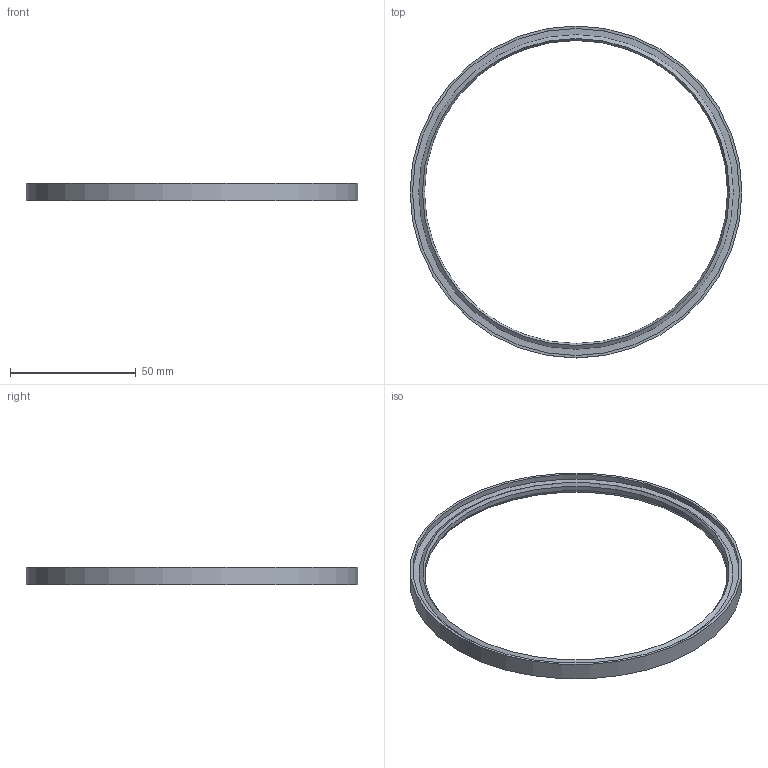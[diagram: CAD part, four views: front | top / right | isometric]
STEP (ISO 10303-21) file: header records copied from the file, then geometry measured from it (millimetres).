
FILE_DESCRIPTION( ( 'Unknown' ), '1' );
FILE_NAME( 'X:/Daten ( aktueller Bestand )/Projekte und Zeichnungen/Solid Edge/STP-Dateien/ISO-K Teile und Zubehör/6292.stp', 'Unknown', ( 'Unknown' ), ( 'Unknown' ), 'PSStep 14.0', 'Unknown', ' ' );
FILE_SCHEMA( ( 'AUTOMOTIVE_DESIGN { 1 0 10303 214 1 1 1 1 }' ) );
Length unit declared in the file: millimetre
Products named in the file (1): 1
Bounding box: 132 x 132 x 7 mm (x, y, z)
Volume: 8388 mm3; surface area: 10879.3 mm2
Topology: 1 solids, 1 shells, 12 faces, 20 edges, 12 vertices
Faces by surface type: plane 4, cylinder 4, cone 4
Full cylindrical faces by diameter (mm): 120.5 x1, 130 x2, 132 x1
Entity records: 360 total; most frequent: DIRECTION 50, CARTESIAN_POINT 37, AXIS2_PLACEMENT_3D 25, EDGE_LOOP 24, ORIENTED_EDGE 24, FACE_OUTER_BOUND 16, STYLED_ITEM 12, PRESENTATION_STYLE_ASSIGNMENT 12
